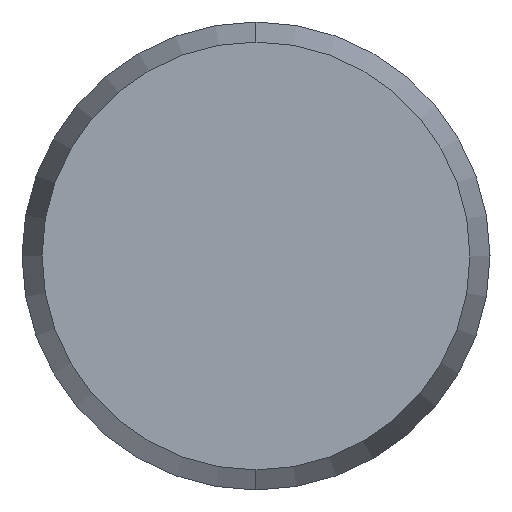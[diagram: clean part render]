
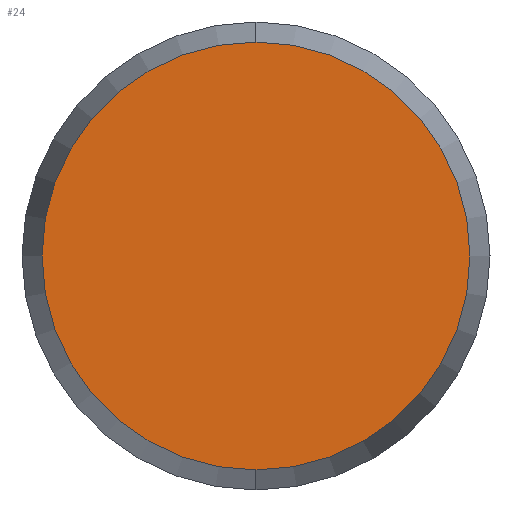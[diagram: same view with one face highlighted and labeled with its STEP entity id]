
A CAD part, left-side view. The second image highlights one B-rep face of the part: STEP entity #24.
In plain terms, the highlighted planar face has unit normal (-1, 0, 0).
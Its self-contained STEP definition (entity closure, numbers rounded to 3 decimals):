
#18 = ORIENTED_EDGE ( 'NONE', *, *, #60, .F. ) ;
#21 = EDGE_LOOP ( 'NONE', ( #18, #22 ) ) ;
#22 = ORIENTED_EDGE ( 'NONE', *, *, #48, .F. ) ;
#24 = ADVANCED_FACE ( 'NONE', ( #97 ), #95, .F. ) ;
#48 = EDGE_CURVE ( 'NONE', #65, #61, #196, .T. ) ;
#60 = EDGE_CURVE ( 'NONE', #61, #65, #179, .T. ) ;
#61 = VERTEX_POINT ( 'NONE', #174 ) ;
#65 = VERTEX_POINT ( 'NONE', #171 ) ;
#91 = DIRECTION ( 'NONE',  ( 0., 0., -1. ) ) ;
#92 = DIRECTION ( 'NONE',  ( 1., 0., 0. ) ) ;
#93 = CARTESIAN_POINT ( 'NONE',  ( -15., 0., 0. ) ) ;
#94 = AXIS2_PLACEMENT_3D ( 'NONE', #93, #92, #91 ) ;
#95 = PLANE ( 'NONE',  #94 ) ;
#97 = FACE_OUTER_BOUND ( 'NONE', #21, .T. ) ;
#171 = CARTESIAN_POINT ( 'NONE',  ( -15., 0., -2.286 ) ) ;
#174 = CARTESIAN_POINT ( 'NONE',  ( -15., 0., 2.286 ) ) ;
#175 = DIRECTION ( 'NONE',  ( 0., 0., -1. ) ) ;
#176 = DIRECTION ( 'NONE',  ( 1., 0., 0. ) ) ;
#177 = CARTESIAN_POINT ( 'NONE',  ( -15., 0., 0. ) ) ;
#178 = AXIS2_PLACEMENT_3D ( 'NONE', #177, #176, #175 ) ;
#179 = CIRCLE ( 'NONE', #178, 2.286 ) ;
#192 = DIRECTION ( 'NONE',  ( 0., 0., -1. ) ) ;
#193 = DIRECTION ( 'NONE',  ( 1., 0., 0. ) ) ;
#194 = CARTESIAN_POINT ( 'NONE',  ( -15., 0., 0. ) ) ;
#195 = AXIS2_PLACEMENT_3D ( 'NONE', #194, #193, #192 ) ;
#196 = CIRCLE ( 'NONE', #195, 2.286 ) ;
